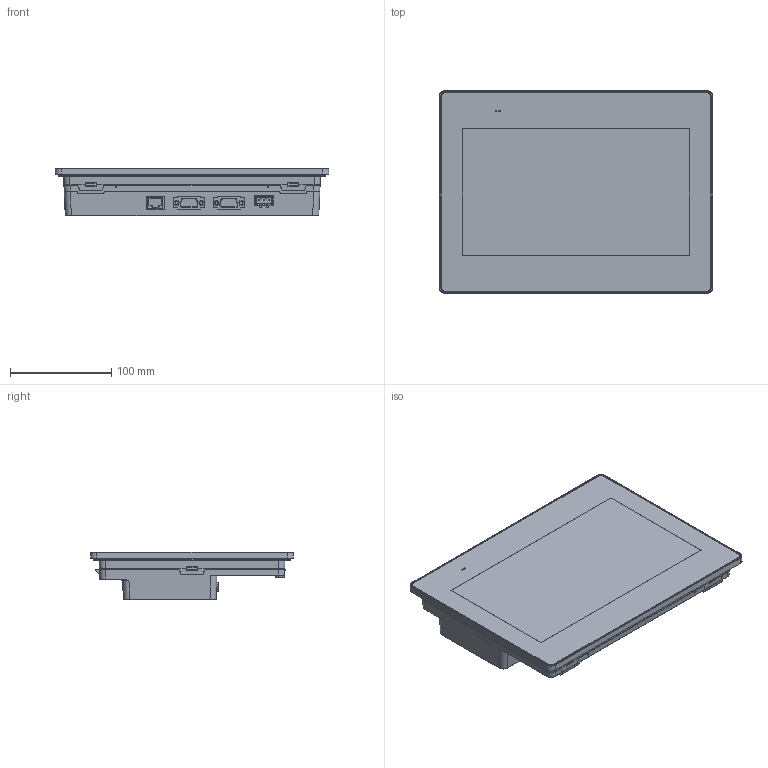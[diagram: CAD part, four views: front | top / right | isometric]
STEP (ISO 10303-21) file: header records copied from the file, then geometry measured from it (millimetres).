
FILE_DESCRIPTION (( 'STEP AP203' ), '1' );
FILE_NAME ('HMIET6500-10inch-ETH-20210113_simpl.STEP', '2021-04-22T17:04:55', ( 'Polynotes' ), ( 'Hewlett-Packard Company' ), 'SwSTEP 2.0', 'SolidWorks 2017', '' );
FILE_SCHEMA (( 'CONFIG_CONTROL_DESIGN' ));
Products named in the file (1): HMIET6500-10inch-ETH-20210113_simpl
Bounding box: 270.5 x 200.5 x 47 mm (x, y, z)
Volume: 1672360.3 mm3; surface area: 159252.3 mm2
Topology: 12 solids, 12 shells, 1030 faces, 2677 edges, 1699 vertices
Faces by surface type: plane 578, cylinder 294, bspline 66, torus 54, cone 33, sphere 5
Entity records: 40782 total; most frequent: CARTESIAN_POINT 16989, ORIENTED_EDGE 5354, DIRECTION 4224, EDGE_CURVE 2677, VERTEX_POINT 1699, VECTOR 1680, LINE 1680, AXIS2_PLACEMENT_3D 1272
